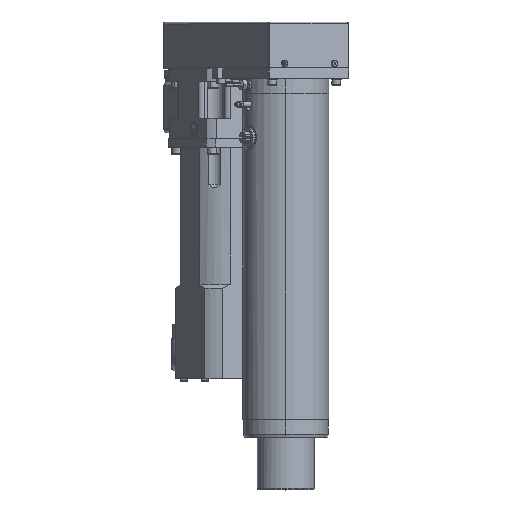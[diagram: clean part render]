
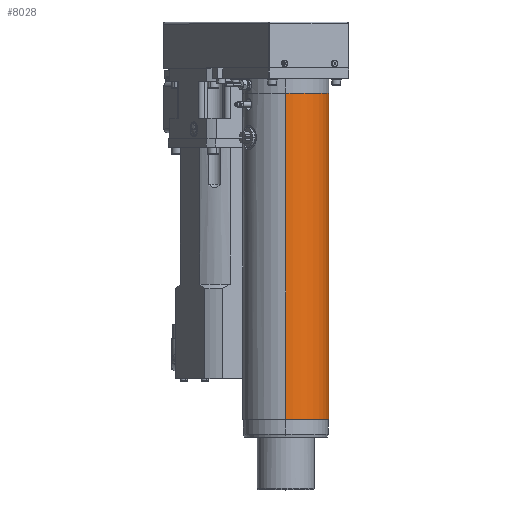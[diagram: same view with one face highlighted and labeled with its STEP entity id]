
A CAD part, top view. The second image highlights one B-rep face of the part: STEP entity #8028.
In plain terms, the highlighted cylindrical face has radius 49 mm (diameter 98 mm), a partial arc.
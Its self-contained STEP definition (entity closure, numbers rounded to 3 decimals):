
#4440 = AXIS2_PLACEMENT_3D ( 'NONE', #83382, #90853, #60584 ) ;
#5253 = CYLINDRICAL_SURFACE ( 'NONE', #4440, 49. ) ;
#6419 = FACE_OUTER_BOUND ( 'NONE', #54228, .T. ) ;
#7540 = CARTESIAN_POINT ( 'NONE',  ( -404.972, 136.598, 362.843 ) ) ;
#8028 = ADVANCED_FACE ( 'NONE', ( #6419 ), #5253, .T. ) ;
#18851 = VERTEX_POINT ( 'NONE', #24959 ) ;
#19445 = AXIS2_PLACEMENT_3D ( 'NONE', #46246, #38813, #70417 ) ;
#24959 = CARTESIAN_POINT ( 'NONE',  ( -404.972, -233.402, 313.843 ) ) ;
#28176 = CIRCLE ( 'NONE', #19445, 49. ) ;
#32195 = ORIENTED_EDGE ( 'NONE', *, *, #35320, .T. ) ;
#33137 = AXIS2_PLACEMENT_3D ( 'NONE', #7540, #63706, #93277 ) ;
#35320 = EDGE_CURVE ( 'NONE', #100224, #46399, #85450, .T. ) ;
#36016 = LINE ( 'NONE', #36108, #95516 ) ;
#36108 = CARTESIAN_POINT ( 'NONE',  ( -404.972, -253.402, 313.843 ) ) ;
#37025 = VERTEX_POINT ( 'NONE', #81454 ) ;
#38813 = DIRECTION ( 'NONE',  ( 0., -1., 0. ) ) ;
#46246 = CARTESIAN_POINT ( 'NONE',  ( -404.972, -233.402, 362.843 ) ) ;
#46399 = VERTEX_POINT ( 'NONE', #59987 ) ;
#54228 = EDGE_LOOP ( 'NONE', ( #96959, #32195, #97000, #99921 ) ) ;
#56001 = CIRCLE ( 'NONE', #33137, 49. ) ;
#59987 = CARTESIAN_POINT ( 'NONE',  ( -404.972, -233.402, 411.843 ) ) ;
#60584 = DIRECTION ( 'NONE',  ( 0., 0., -1. ) ) ;
#63706 = DIRECTION ( 'NONE',  ( 0., -1., 0. ) ) ;
#70417 = DIRECTION ( 'NONE',  ( 0., 0., -1. ) ) ;
#72213 = DIRECTION ( 'NONE',  ( 0., -1., 0. ) ) ;
#73862 = DIRECTION ( 'NONE',  ( 0., -1., 0. ) ) ;
#78155 = VECTOR ( 'NONE', #72213, 1000. ) ;
#81454 = CARTESIAN_POINT ( 'NONE',  ( -404.972, 136.598, 313.843 ) ) ;
#83382 = CARTESIAN_POINT ( 'NONE',  ( -404.972, -253.402, 362.843 ) ) ;
#85450 = LINE ( 'NONE', #87509, #78155 ) ;
#87509 = CARTESIAN_POINT ( 'NONE',  ( -404.972, -253.402, 411.843 ) ) ;
#88452 = EDGE_CURVE ( 'NONE', #18851, #46399, #28176, .T. ) ;
#89020 = EDGE_CURVE ( 'NONE', #37025, #100224, #56001, .T. ) ;
#90478 = CARTESIAN_POINT ( 'NONE',  ( -404.972, 136.598, 411.843 ) ) ;
#90853 = DIRECTION ( 'NONE',  ( 0., -1., 0. ) ) ;
#93277 = DIRECTION ( 'NONE',  ( 0., 0., -1. ) ) ;
#95516 = VECTOR ( 'NONE', #73862, 1000. ) ;
#96959 = ORIENTED_EDGE ( 'NONE', *, *, #89020, .T. ) ;
#97000 = ORIENTED_EDGE ( 'NONE', *, *, #88452, .F. ) ;
#97021 = EDGE_CURVE ( 'NONE', #37025, #18851, #36016, .T. ) ;
#99921 = ORIENTED_EDGE ( 'NONE', *, *, #97021, .F. ) ;
#100224 = VERTEX_POINT ( 'NONE', #90478 ) ;
